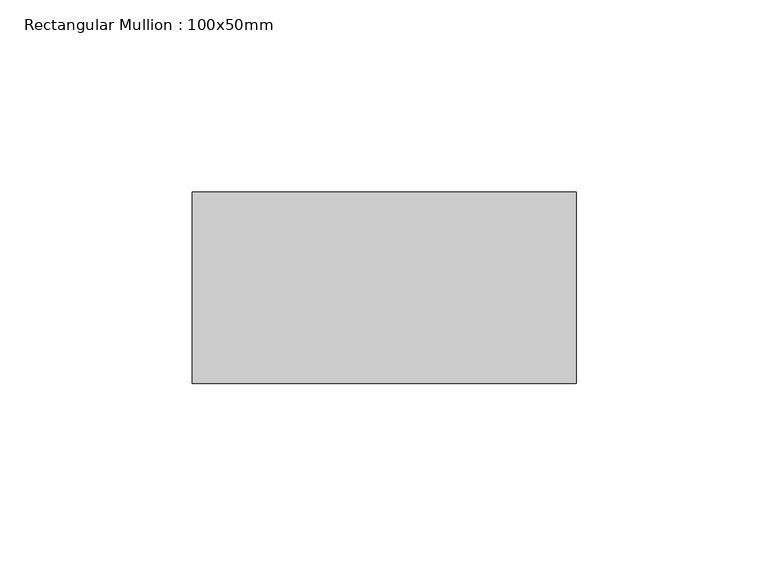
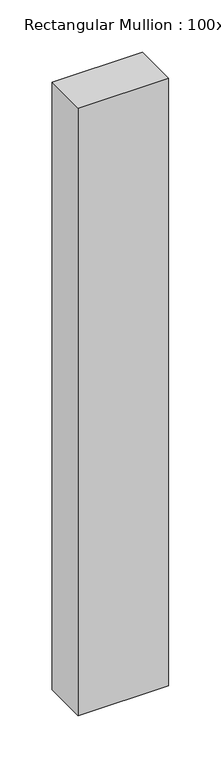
"""IFC4 building model written with IfcOpenShell, lengths in millimetres: member geometry, Rectangular Mullion : 100x50mm."""

from ifc_helpers import new_model, si_unit, frame, origin, place, context, project, spatial, polyline, outline, extrude, source, transform, mapped, element, save


def rectangular_mullion_100x50mm_441abd5d(model_context):
    return source(origin(), model_context, "Body", "SweptSolid", [
        extrude(outline(polyline([(50.0, 25.0), (50.0, -25.0), (-50.0, -25.0), (-50.0, 25.0), (50.0, 25.0)])), frame((0.0, 0.0, -710.001677), z_axis=(0.0, 0.0, 1.0), x_axis=(1.0, 0.0, 0.0)), (0.0, 0.0, 1.0), 710.001677),
    ])


if __name__ == "__main__":
    model = new_model("IFC4")
    model_context = context("Model", 3, world=origin())
    ifc_project = project(units=[si_unit("LENGTHUNIT", "METRE", prefix="MILLI")], contexts=[model_context])
    site = spatial("IfcSite", under=ifc_project)
    building = spatial("IfcBuilding", under=site)
    placement = place(None, origin())
    rectangular_mullion_100x50mm_shape = rectangular_mullion_100x50mm_441abd5d(model_context)
    element("IfcMember", 1, ObjectType="Rectangular Mullion : 100x50mm", at=placement, inside=building, context=model_context, shape_type="MappedRepresentation", body=[
        mapped(rectangular_mullion_100x50mm_shape, transform((0.0, 0.0, 0.0), x_axis=(1.0, 0.0, 0.0), y_axis=(0.0, 1.0, 0.0), z_axis=(0.0, 0.0, 1.0))),
    ])
    save(model, "model.ifc")
